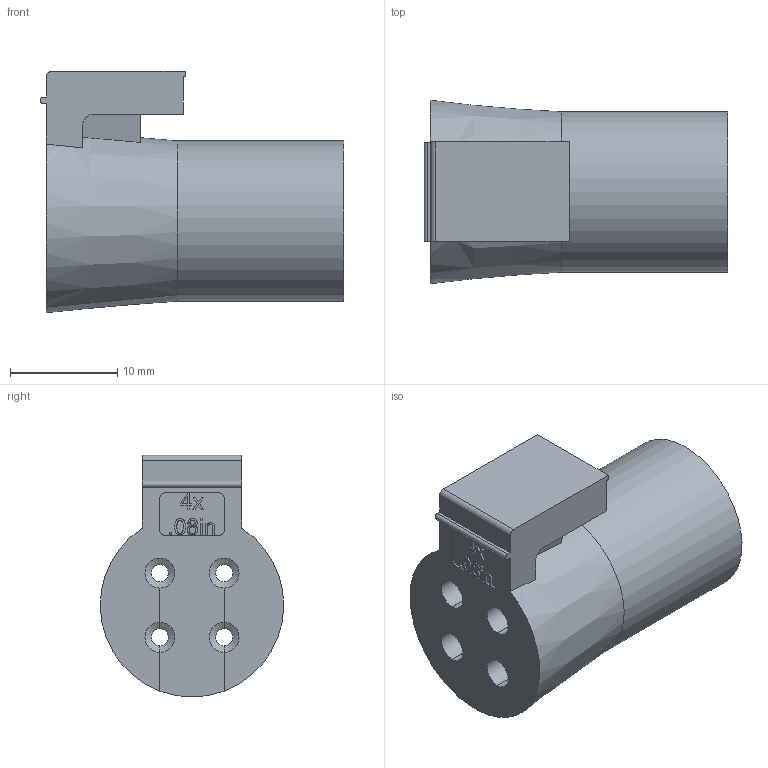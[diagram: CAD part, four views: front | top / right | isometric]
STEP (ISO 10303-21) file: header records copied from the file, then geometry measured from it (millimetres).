
FILE_DESCRIPTION(/* description */ (''),/* implementation_level */ '2;1');
FILE_NAME(/* name */ 'H:\SapWorkDir\Inventor\MP1\ConvertTempPath\87_12_121331_00_A_220525_KDT-X 4x2.stp',/* time_stamp */ '2022-05-30T12:53:17+02:00',/* author */ ('BAUER'),/* organization */ (''),/* preprocessor_version */ 'ST-DEVELOPER v16.13',/* originating_system */ 'Autodesk Inventor 2018',/* authorisation */ '');
FILE_SCHEMA (('AUTOMOTIVE_DESIGN { 1 0 10303 214 3 1 1 }'));
Length unit declared in the file: millimetre
Products named in the file (1): 121331
Bounding box: 28.4 x 17.14 x 22.55 mm (x, y, z)
Volume: 5165.4 mm3; surface area: 3752.8 mm2
Topology: 1 solids, 1 shells, 167 faces, 458 edges, 302 vertices
Faces by surface type: plane 89, bspline 33, cylinder 31, cone 14
Full cylindrical faces by diameter (mm): 1.6 x2
Entity records: 5432 total; most frequent: CARTESIAN_POINT 1355, ORIENTED_EDGE 896, DIRECTION 714, EDGE_CURVE 448, LINE 304, VECTOR 304, VERTEX_POINT 298, AXIS2_PLACEMENT_3D 205
